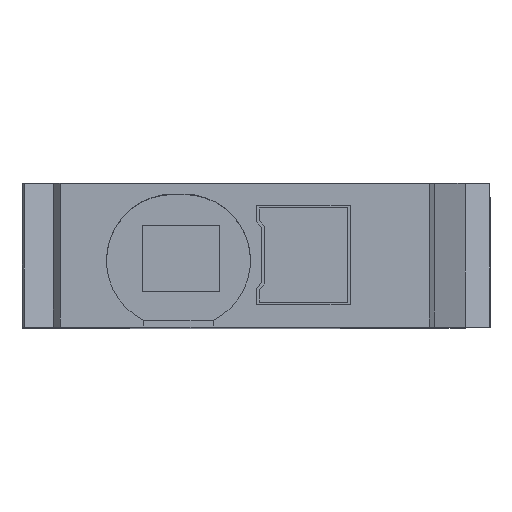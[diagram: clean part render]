
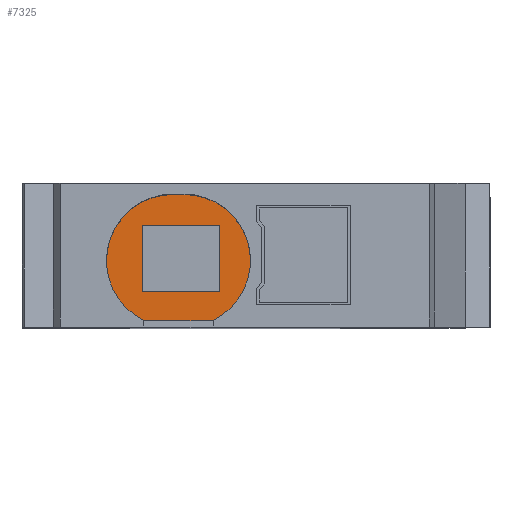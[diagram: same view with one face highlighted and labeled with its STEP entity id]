
A CAD part, top view. The second image highlights one B-rep face of the part: STEP entity #7325.
In plain terms, the highlighted planar face has unit normal (0, 0, 1).
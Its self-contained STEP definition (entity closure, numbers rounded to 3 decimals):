
#7325 = ADVANCED_FACE('',(#7326,#7397),#7340,.T.);
#7326 = FACE_BOUND('',#7327,.T.);
#7327 = EDGE_LOOP('',(#7328,#7351,#7367,#7383));
#7328 = ORIENTED_EDGE('',*,*,#7329,.F.);
#7329 = EDGE_CURVE('',#7330,#7332,#7334,.T.);
#7330 = VERTEX_POINT('',#7331);
#7331 = CARTESIAN_POINT('',(0.45,-1.5,30.6
    ));
#7332 = VERTEX_POINT('',#7333);
#7333 = CARTESIAN_POINT('',(0.45,-3.9,30.6
    ));
#7334 = SURFACE_CURVE('',#7335,(#7339),.PCURVE_S1.);
#7335 = LINE('',#7336,#7337);
#7336 = CARTESIAN_POINT('',(0.45,-1.5,30.6
    ));
#7337 = VECTOR('',#7338,1.);
#7338 = DIRECTION('',(0.,-1.,0.));
#7339 = PCURVE('',#7340,#7345);
#7340 = PLANE('',#7341);
#7341 = AXIS2_PLACEMENT_3D('',#7342,#7343,#7344);
#7342 = CARTESIAN_POINT('',(1.95,-2.8,30.6));
#7343 = DIRECTION('',(0.,0.,1.));
#7344 = DIRECTION('',(0.,-1.,0.));
#7345 = DEFINITIONAL_REPRESENTATION('',(#7346),#7350);
#7346 = LINE('',#7347,#7348);
#7347 = CARTESIAN_POINT('',(-1.3,-1.5));
#7348 = VECTOR('',#7349,1.);
#7349 = DIRECTION('',(1.,0.));
#7350 = ( GEOMETRIC_REPRESENTATION_CONTEXT(2) 
PARAMETRIC_REPRESENTATION_CONTEXT() REPRESENTATION_CONTEXT('2D SPACE',''
  ) );
#7351 = ORIENTED_EDGE('',*,*,#7352,.F.);
#7352 = EDGE_CURVE('',#7353,#7330,#7355,.T.);
#7353 = VERTEX_POINT('',#7354);
#7354 = CARTESIAN_POINT('',(3.25,-1.5,30.6
    ));
#7355 = SURFACE_CURVE('',#7356,(#7360),.PCURVE_S1.);
#7356 = LINE('',#7357,#7358);
#7357 = CARTESIAN_POINT('',(3.25,-1.5,30.6
    ));
#7358 = VECTOR('',#7359,1.);
#7359 = DIRECTION('',(-1.,0.,0.));
#7360 = PCURVE('',#7340,#7361);
#7361 = DEFINITIONAL_REPRESENTATION('',(#7362),#7366);
#7362 = LINE('',#7363,#7364);
#7363 = CARTESIAN_POINT('',(-1.3,1.3));
#7364 = VECTOR('',#7365,1.);
#7365 = DIRECTION('',(0.,-1.));
#7366 = ( GEOMETRIC_REPRESENTATION_CONTEXT(2) 
PARAMETRIC_REPRESENTATION_CONTEXT() REPRESENTATION_CONTEXT('2D SPACE',''
  ) );
#7367 = ORIENTED_EDGE('',*,*,#7368,.F.);
#7368 = EDGE_CURVE('',#7369,#7353,#7371,.T.);
#7369 = VERTEX_POINT('',#7370);
#7370 = CARTESIAN_POINT('',(3.25,-3.9,30.6
    ));
#7371 = SURFACE_CURVE('',#7372,(#7376),.PCURVE_S1.);
#7372 = LINE('',#7373,#7374);
#7373 = CARTESIAN_POINT('',(3.25,-3.9,30.6
    ));
#7374 = VECTOR('',#7375,1.);
#7375 = DIRECTION('',(0.,1.,0.));
#7376 = PCURVE('',#7340,#7377);
#7377 = DEFINITIONAL_REPRESENTATION('',(#7378),#7382);
#7378 = LINE('',#7379,#7380);
#7379 = CARTESIAN_POINT('',(1.1,1.3));
#7380 = VECTOR('',#7381,1.);
#7381 = DIRECTION('',(-1.,0.));
#7382 = ( GEOMETRIC_REPRESENTATION_CONTEXT(2) 
PARAMETRIC_REPRESENTATION_CONTEXT() REPRESENTATION_CONTEXT('2D SPACE',''
  ) );
#7383 = ORIENTED_EDGE('',*,*,#7384,.F.);
#7384 = EDGE_CURVE('',#7332,#7369,#7385,.T.);
#7385 = SURFACE_CURVE('',#7386,(#7390),.PCURVE_S1.);
#7386 = LINE('',#7387,#7388);
#7387 = CARTESIAN_POINT('',(0.45,-3.9,30.6
    ));
#7388 = VECTOR('',#7389,1.);
#7389 = DIRECTION('',(1.,0.,0.));
#7390 = PCURVE('',#7340,#7391);
#7391 = DEFINITIONAL_REPRESENTATION('',(#7392),#7396);
#7392 = LINE('',#7393,#7394);
#7393 = CARTESIAN_POINT('',(1.1,-1.5));
#7394 = VECTOR('',#7395,1.);
#7395 = DIRECTION('',(0.,1.));
#7396 = ( GEOMETRIC_REPRESENTATION_CONTEXT(2) 
PARAMETRIC_REPRESENTATION_CONTEXT() REPRESENTATION_CONTEXT('2D SPACE',''
  ) );
#7397 = FACE_BOUND('',#7398,.T.);
#7398 = EDGE_LOOP('',(#7399,#7417,#7438,#7454));
#7399 = ORIENTED_EDGE('',*,*,#7400,.F.);
#7400 = EDGE_CURVE('',#7401,#7403,#7405,.T.);
#7401 = VERTEX_POINT('',#7402);
#7402 = CARTESIAN_POINT('',(3.,-4.958,
    30.6));
#7403 = VERTEX_POINT('',#7404);
#7404 = CARTESIAN_POINT('',(0.5,-4.958,30.6
    ));
#7405 = SURFACE_CURVE('',#7406,(#7410),.PCURVE_S1.);
#7406 = LINE('',#7407,#7408);
#7407 = CARTESIAN_POINT('',(3.,-4.958,
    30.6));
#7408 = VECTOR('',#7409,1.);
#7409 = DIRECTION('',(-1.,0.,0.));
#7410 = PCURVE('',#7340,#7411);
#7411 = DEFINITIONAL_REPRESENTATION('',(#7412),#7416);
#7412 = LINE('',#7413,#7414);
#7413 = CARTESIAN_POINT('',(2.158,1.05));
#7414 = VECTOR('',#7415,1.);
#7415 = DIRECTION('',(0.,-1.));
#7416 = ( GEOMETRIC_REPRESENTATION_CONTEXT(2) 
PARAMETRIC_REPRESENTATION_CONTEXT() REPRESENTATION_CONTEXT('2D SPACE',''
  ) );
#7417 = ORIENTED_EDGE('',*,*,#7418,.F.);
#7418 = EDGE_CURVE('',#7419,#7401,#7421,.T.);
#7419 = VERTEX_POINT('',#7420);
#7420 = CARTESIAN_POINT('',(1.95,-0.4,30.6));
#7421 = SURFACE_CURVE('',#7422,(#7427),.PCURVE_S1.);
#7422 = CIRCLE('',#7423,2.4);
#7423 = AXIS2_PLACEMENT_3D('',#7424,#7425,#7426);
#7424 = CARTESIAN_POINT('',(1.95,-2.8,30.6));
#7425 = DIRECTION('',(0.,0.,-1.));
#7426 = DIRECTION('',(1.,0.,0.));
#7427 = PCURVE('',#7340,#7428);
#7428 = DEFINITIONAL_REPRESENTATION('',(#7429),#7437);
#7429 = ( BOUNDED_CURVE() B_SPLINE_CURVE(2,(#7430,#7431,#7432,#7433,
#7434,#7435,#7436),.UNSPECIFIED.,.F.,.F.) B_SPLINE_CURVE_WITH_KNOTS((1,2
    ,2,2,2,1),(-2.094,0.,2.094,4.189,
6.283,8.378),.UNSPECIFIED.) CURVE() 
GEOMETRIC_REPRESENTATION_ITEM() RATIONAL_B_SPLINE_CURVE((1.,0.5,1.,0.5,
1.,0.5,1.)) REPRESENTATION_ITEM('') );
#7430 = CARTESIAN_POINT('',(0.,2.4));
#7431 = CARTESIAN_POINT('',(4.157,2.4));
#7432 = CARTESIAN_POINT('',(2.078,-1.2));
#7433 = CARTESIAN_POINT('',(0.,-4.8));
#7434 = CARTESIAN_POINT('',(-2.078,-1.2));
#7435 = CARTESIAN_POINT('',(-4.157,2.4));
#7436 = CARTESIAN_POINT('',(0.,2.4));
#7437 = ( GEOMETRIC_REPRESENTATION_CONTEXT(2) 
PARAMETRIC_REPRESENTATION_CONTEXT() REPRESENTATION_CONTEXT('2D SPACE',''
  ) );
#7438 = ORIENTED_EDGE('',*,*,#7439,.F.);
#7439 = EDGE_CURVE('',#7440,#7419,#7442,.T.);
#7440 = VERTEX_POINT('',#7441);
#7441 = CARTESIAN_POINT('',(1.55,-0.4,30.6));
#7442 = SURFACE_CURVE('',#7443,(#7447),.PCURVE_S1.);
#7443 = LINE('',#7444,#7445);
#7444 = CARTESIAN_POINT('',(1.95,-0.4,30.6));
#7445 = VECTOR('',#7446,1.);
#7446 = DIRECTION('',(1.,0.,0.));
#7447 = PCURVE('',#7340,#7448);
#7448 = DEFINITIONAL_REPRESENTATION('',(#7449),#7453);
#7449 = LINE('',#7450,#7451);
#7450 = CARTESIAN_POINT('',(-2.4,0.));
#7451 = VECTOR('',#7452,1.);
#7452 = DIRECTION('',(0.,1.));
#7453 = ( GEOMETRIC_REPRESENTATION_CONTEXT(2) 
PARAMETRIC_REPRESENTATION_CONTEXT() REPRESENTATION_CONTEXT('2D SPACE',''
  ) );
#7454 = ORIENTED_EDGE('',*,*,#7455,.F.);
#7455 = EDGE_CURVE('',#7403,#7440,#7456,.T.);
#7456 = SURFACE_CURVE('',#7457,(#7462),.PCURVE_S1.);
#7457 = CIRCLE('',#7458,2.4);
#7458 = AXIS2_PLACEMENT_3D('',#7459,#7460,#7461);
#7459 = CARTESIAN_POINT('',(1.55,-2.8,
    30.6));
#7460 = DIRECTION('',(0.,0.,-1.));
#7461 = DIRECTION('',(1.,0.,0.));
#7462 = PCURVE('',#7340,#7463);
#7463 = DEFINITIONAL_REPRESENTATION('',(#7464),#7472);
#7464 = ( BOUNDED_CURVE() B_SPLINE_CURVE(2,(#7465,#7466,#7467,#7468,
#7469,#7470,#7471),.UNSPECIFIED.,.F.,.F.) B_SPLINE_CURVE_WITH_KNOTS((1,2
    ,2,2,2,1),(-2.094,0.,2.094,4.189,
6.283,8.378),.UNSPECIFIED.) CURVE() 
GEOMETRIC_REPRESENTATION_ITEM() RATIONAL_B_SPLINE_CURVE((1.,0.5,1.,0.5,
1.,0.5,1.)) REPRESENTATION_ITEM('') );
#7465 = CARTESIAN_POINT('',(0.,2.));
#7466 = CARTESIAN_POINT('',(4.157,2.));
#7467 = CARTESIAN_POINT('',(2.078,-1.6));
#7468 = CARTESIAN_POINT('',(0.,-5.2));
#7469 = CARTESIAN_POINT('',(-2.078,-1.6));
#7470 = CARTESIAN_POINT('',(-4.157,2.));
#7471 = CARTESIAN_POINT('',(0.,2.));
#7472 = ( GEOMETRIC_REPRESENTATION_CONTEXT(2) 
PARAMETRIC_REPRESENTATION_CONTEXT() REPRESENTATION_CONTEXT('2D SPACE',''
  ) );
